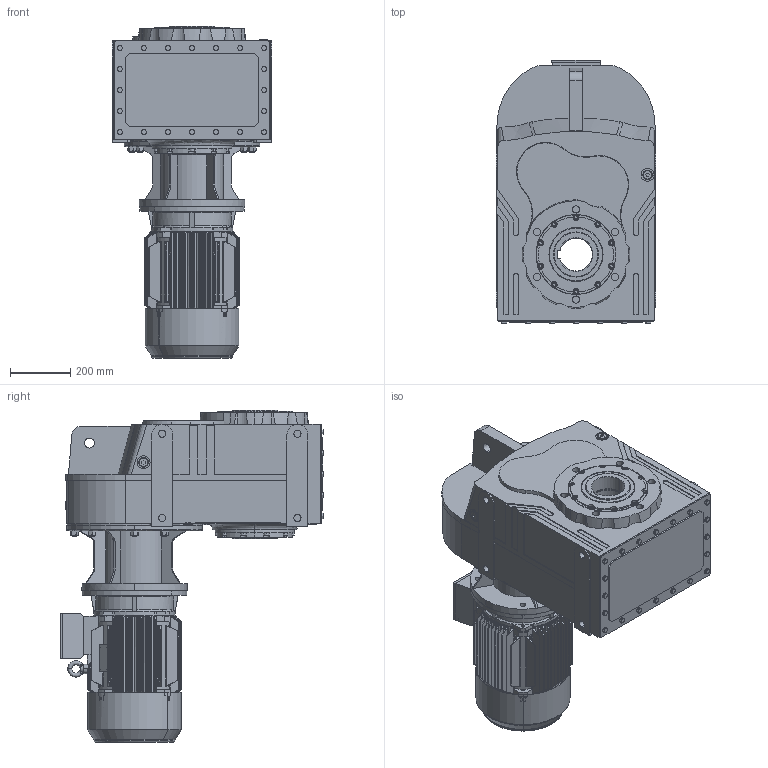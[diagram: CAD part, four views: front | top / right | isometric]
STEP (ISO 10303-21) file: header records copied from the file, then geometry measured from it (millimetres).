
FILE_DESCRIPTION (( 'STEP AP203' ), '1' );
FILE_NAME ('DV872-DV873-M3-160M.STEP', '2019-07-23T13:31:53', ( '' ), ( '' ), 'SwSTEP 2.0', 'SolidWorks 2012', '' );
FILE_SCHEMA (( 'CONFIG_CONTROL_DESIGN' ));
Products named in the file (15): M3-160M-FF-B5; DV872-DV873-M3-160M; Y2-160_shaft; Y2-160M+À+¿(B5)_-++ñ; +ª+§ªiY2-160ñ»ª­_-++ñ; Y2-160-180ñ»ª­®+_-++ñ; Y2-160-2ª¥--®+_-++ñ; Y2-160ñ»ª­+¿_-++ñ; +¦i-MN2-160_-++ñ; Eyebolts GB_GB_FASTENER_SCREWS_FRS M12; ML23A_Varsayìlan; DN_87_3_0_A-B16_B5_ML23A_0_0_0_0_0_0_0_0_0_0_0_0_M1; Y2-160-4Ý¾6Ý¾8-ª+---®+_-++ñ; 83B160B5_Varsayìlan; D873_Varsayìlan
Assembly tree (14 placements, depth 4):
  DV872-DV873-M3-160M
    DN_87_3_0_A-B16_B5_ML23A_0_0_0_0_0_0_0_0_0_0_0_0_M1
      D873_Varsayìlan
      83B160B5_Varsayìlan
      ML23A_Varsayìlan
    M3-160M-FF-B5
      Eyebolts GB_GB_FASTENER_SCREWS_FRS M12
      Y2-160-4Ý¾6Ý¾8-ª+---®+_-++ñ
      +¦i-MN2-160_-++ñ
      Y2-160-2ª¥--®+_-++ñ
      +ª+§ªiY2-160ñ»ª­_-++ñ
        Y2-160-180ñ»ª­®+_-++ñ
        Y2-160ñ»ª­+¿_-++ñ
      Y2-160M+À+¿(B5)_-++ñ
      Y2-160_shaft
Bounding box: 530 x 876.4 x 1104.5 mm (x, y, z)
Volume: 148279057.7 mm3; surface area: 5534907.4 mm2
Topology: 36 solids, 36 shells, 2904 faces, 7427 edges, 4709 vertices
Faces by surface type: plane 1235, cylinder 985, cone 391, bspline 186, torus 67, sphere 40
Entity records: 127248 total; most frequent: CARTESIAN_POINT 57770, ORIENTED_EDGE 14758, DIRECTION 13219, EDGE_CURVE 7379, AXIS2_PLACEMENT_3D 4914, VERTEX_POINT 4694, VECTOR 3391, LINE 3391
